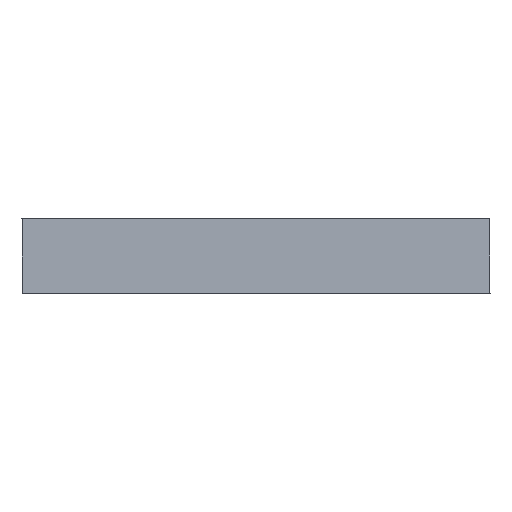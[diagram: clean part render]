
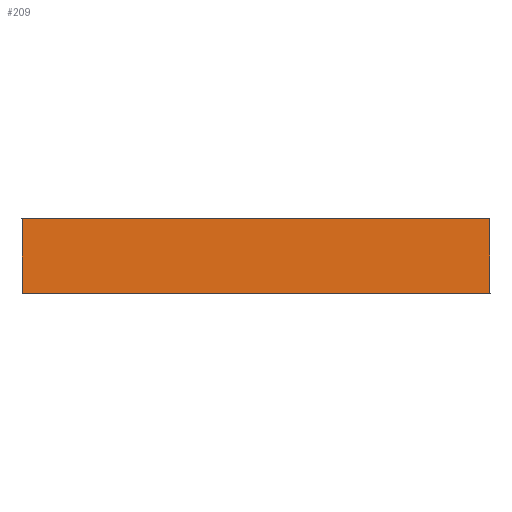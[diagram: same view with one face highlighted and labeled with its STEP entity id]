
A CAD part, left-side view. The second image highlights one B-rep face of the part: STEP entity #209.
In plain terms, the highlighted planar face has unit normal (-0.707, -0.707, 0).
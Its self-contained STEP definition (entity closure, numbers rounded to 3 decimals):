
#8 = DIRECTION ( 'NONE',  ( 0., 0., 1. ) ) ;
#9 = ORIENTED_EDGE ( 'NONE', *, *, #285, .T. ) ;
#25 = DIRECTION ( 'NONE',  ( 0.707, -0.707, 0. ) ) ;
#27 = LINE ( 'NONE', #319, #171 ) ;
#30 = ORIENTED_EDGE ( 'NONE', *, *, #60, .F. ) ;
#45 = FACE_OUTER_BOUND ( 'NONE', #110, .T. ) ;
#60 = EDGE_CURVE ( 'NONE', #193, #320, #68, .T. ) ;
#62 = VECTOR ( 'NONE', #8, 1000. ) ;
#65 = CARTESIAN_POINT ( 'NONE',  ( -262., 0., 0. ) ) ;
#68 = LINE ( 'NONE', #65, #236 ) ;
#75 = DIRECTION ( 'NONE',  ( 0.707, -0.707, 0. ) ) ;
#98 = PLANE ( 'NONE',  #135 ) ;
#99 = CARTESIAN_POINT ( 'NONE',  ( -262., 0., 0. ) ) ;
#110 = EDGE_LOOP ( 'NONE', ( #30, #156, #117, #9 ) ) ;
#117 = ORIENTED_EDGE ( 'NONE', *, *, #238, .T. ) ;
#127 = CARTESIAN_POINT ( 'NONE',  ( -262., 0., -4. ) ) ;
#129 = LINE ( 'NONE', #288, #62 ) ;
#135 = AXIS2_PLACEMENT_3D ( 'NONE', #200, #207, #75 ) ;
#156 = ORIENTED_EDGE ( 'NONE', *, *, #282, .F. ) ;
#161 = VERTEX_POINT ( 'NONE', #127 ) ;
#164 = DIRECTION ( 'NONE',  ( 0., 0., 1. ) ) ;
#171 = VECTOR ( 'NONE', #164, 1000. ) ;
#187 = VERTEX_POINT ( 'NONE', #286 ) ;
#193 = VERTEX_POINT ( 'NONE', #99 ) ;
#200 = CARTESIAN_POINT ( 'NONE',  ( -262., 0., -4. ) ) ;
#206 = VECTOR ( 'NONE', #25, 1000. ) ;
#207 = DIRECTION ( 'NONE',  ( -0.707, -0.707, 0. ) ) ;
#209 = ADVANCED_FACE ( 'NONE', ( #45 ), #98, .T. ) ;
#236 = VECTOR ( 'NONE', #333, 1000. ) ;
#238 = EDGE_CURVE ( 'NONE', #161, #187, #257, .T. ) ;
#257 = LINE ( 'NONE', #313, #206 ) ;
#282 = EDGE_CURVE ( 'NONE', #161, #193, #129, .T. ) ;
#285 = EDGE_CURVE ( 'NONE', #187, #320, #27, .T. ) ;
#286 = CARTESIAN_POINT ( 'NONE',  ( -237., -25., -4. ) ) ;
#288 = CARTESIAN_POINT ( 'NONE',  ( -262., 0., -4. ) ) ;
#313 = CARTESIAN_POINT ( 'NONE',  ( -262., 0., -4. ) ) ;
#317 = CARTESIAN_POINT ( 'NONE',  ( -237., -25., 0. ) ) ;
#319 = CARTESIAN_POINT ( 'NONE',  ( -237., -25., -4. ) ) ;
#320 = VERTEX_POINT ( 'NONE', #317 ) ;
#333 = DIRECTION ( 'NONE',  ( 0.707, -0.707, 0. ) ) ;
